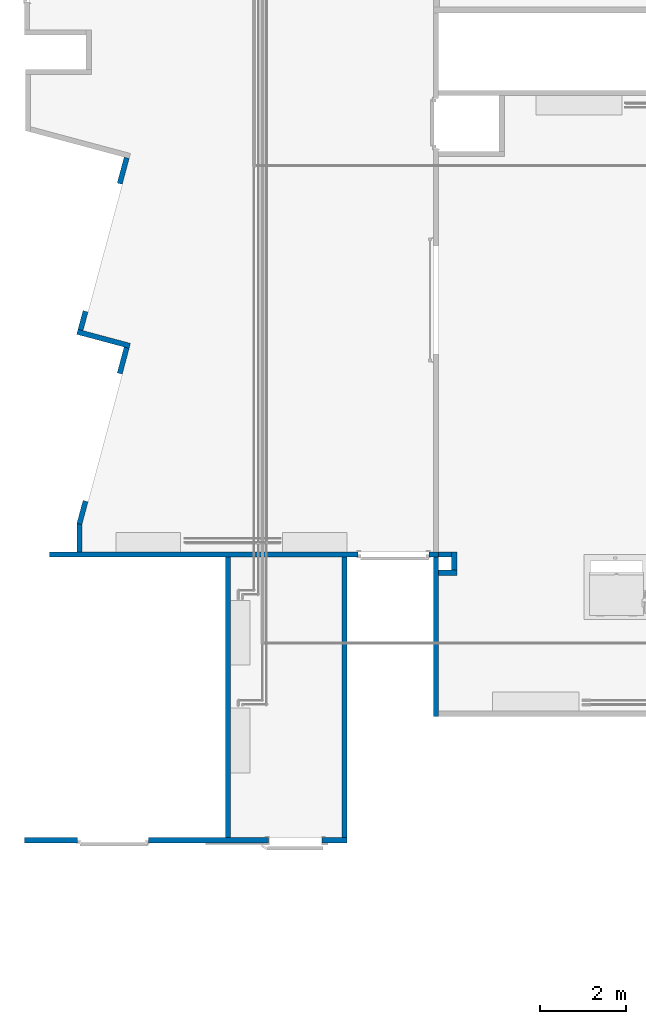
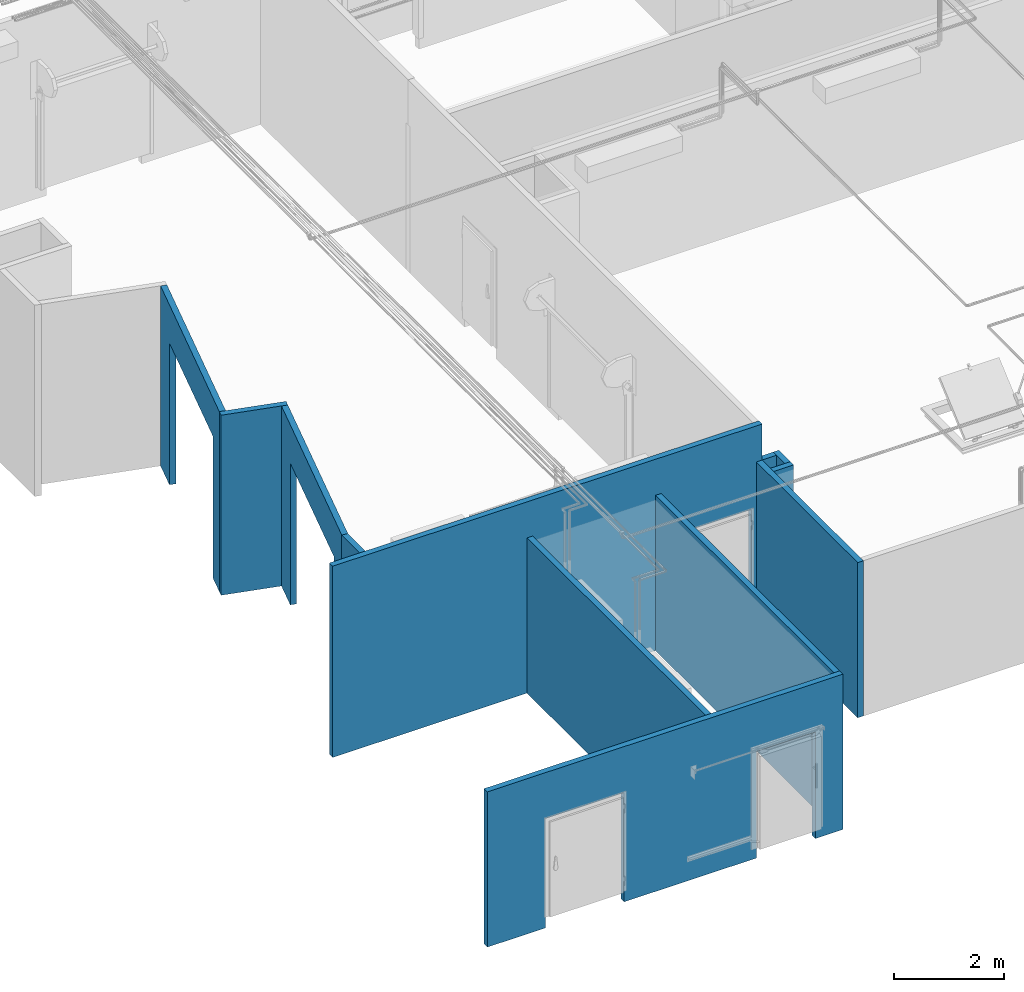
# One storey, part 1 of 652: 12 walls, 8 openings.
"""IFC2X3 building model written with IfcOpenShell, lengths in millimetres."""

from ifc_helpers import new_model, entity, si_unit, converted_unit, direction, frame, frame_2d, origin, place, context, subcontext, project, spatial, polyline, rectangle, outline, extrude, material, layer, layer_set, layer_usage, type_object, element, save


model = new_model("IFC2X3")

# Units and contexts
model_context = context("Model", 3, precision=0.01, world=frame((0.0, 0.0, 308426.39999999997)), true_north=direction((6.123233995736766e-17, 1.0)))
plan_context = context("Plan", 3, precision=0.01, world=frame((0.0, 0.0, 308426.39999999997)), true_north=direction((6.123233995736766e-17, 1.0)))
body_context = subcontext(model_context, "Body", "Model", "MODEL_VIEW")
ifc_project = project(units=[si_unit("LENGTHUNIT", "METRE", prefix="MILLI"), si_unit("AREAUNIT", "SQUARE_METRE"), si_unit("VOLUMEUNIT", "CUBIC_METRE"), converted_unit("PLANEANGLEUNIT", "DEGREE", entity("IfcPlaneAngleMeasure", 0.017453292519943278), si_unit("PLANEANGLEUNIT", "RADIAN"), dimensions=[0, 0, 0, 0, 0, 0, 0])], contexts=[model_context, plan_context])

# Site, building, storey
site_placement = place(None, origin())
site = spatial("IfcSite", under=ifc_project, at=site_placement, Name="Default", CompositionType="ELEMENT")
building_placement = place(site_placement, origin())
building = spatial("IfcBuilding", under=site, at=building_placement, CompositionType="ELEMENT")
storey_placement = place(building_placement, frame((0.0, 0.0, 1730.6999999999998)))
storey = spatial("IfcBuildingStorey", under=building, at=storey_placement, Name="EG_Produktion_FFB", CompositionType="ELEMENT", Elevation=1730.6999999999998)

# Wall
ifc_material = material(Name="GPG_Paneelwand")
ifc_layer = layer(ifc_material, 120.0)
ifc_layer_set = layer_set([ifc_layer], Name="Basiswand:Kühlzellen Paneelwand 120")
ifc_layer_usage_1 = layer_usage(ifc_layer_set, "AXIS2", "NEGATIVE", 60.0)
wall_type = type_object("IfcWallType", Name="Basiswand:Kühlzellen Paneelwand 120", PredefinedType="STANDARD", material=ifc_layer_set)
wall_1_placement = place(storey_placement, frame((19210.0, 36210.0, -250.0), z_axis=(0.0, 0.0, 1.0), x_axis=(0.0, 1.0, 0.0)))
element("IfcWallStandardCase", 1, at=wall_1_placement, inside=storey, type_object=wall_type, material=ifc_layer_usage_1, Name="Basiswand:Kühlzellen Paneelwand 120", ObjectType="Basiswand:Kühlzellen Paneelwand 120", context=body_context, shape_type="SweptSolid", body=[
    extrude(rectangle(XDim=3690.0000000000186, YDim=119.9999999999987, at=frame_2d((1845.0000000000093, 0.0), x_axis=(-1.0, 0.0))), origin(), (0.0, 0.0, 1.0), 3449.9999999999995),
])

# Wall, openings
ifc_layer_usage_2 = layer_usage(ifc_layer_set, "AXIS2", "POSITIVE", -60.0)
wall_2_placement = place(storey_placement, frame((17150.0, 33340.0, -250.0), z_axis=(0.0, 0.0, 1.0), x_axis=(-1.0, 0.0, 0.0)))
wall_2 = element("IfcWallStandardCase", 2, at=wall_2_placement, inside=storey, type_object=wall_type, material=ifc_layer_usage_2, Name="Basiswand:Kühlzellen Paneelwand 120", ObjectType="Basiswand:Kühlzellen Paneelwand 120", context=body_context, shape_type="SweptSolid", body=[
    extrude(rectangle(XDim=7475.000000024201, YDim=119.9999999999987, at=frame_2d((3737.5000000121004, 0.0), x_axis=(1.0, 0.0))), origin(), (0.0, 0.0, 1.0), 3449.9999999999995),
])
opening_1_placement = place(wall_2_placement, frame((17150.0, 33340.0, 250.0), z_axis=(0.0, 0.0, 1.0), x_axis=(-1.0, 0.0, 0.0)))
element("IfcOpeningElement", 3, at=opening_1_placement, cuts=wall_2, Name="Basiswand:Kühlzellen Paneelwand 120", ObjectType="Opening", context=body_context, shape_type="SweptSolid", body=[
    extrude(rectangle(XDim=2120.0, YDim=1239.9999999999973, at=frame_2d((0.0, -1.0800249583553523e-12), x_axis=(1.0, 0.0))), frame((15950.0, 34924.0, 1060.0), z_axis=(0.0, -1.0, 0.0), x_axis=(0.0, 0.0, 1.0)), (0.0, 0.0, 1.0), 3048.0),
])
opening_2_placement = place(wall_2_placement, frame((17150.0, 33340.0, 250.0), z_axis=(0.0, 0.0, 1.0), x_axis=(-1.0, 0.0, 0.0)))
element("IfcOpeningElement", 4, at=opening_2_placement, cuts=wall_2, Name="Basiswand:Kühlzellen Paneelwand 120", ObjectType="Opening", context=body_context, shape_type="SweptSolid", body=[
    extrude(rectangle(XDim=250.00000000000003, YDim=1239.9999999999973, at=frame_2d((2.7000623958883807e-13, -1.0800249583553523e-12), x_axis=(1.0, 0.0))), frame((15950.0, 34804.0, -125.0), z_axis=(0.0, -1.0, 0.0), x_axis=(0.0, 0.0, 1.0)), (0.0, 0.0, 1.0), 3048.0),
])
opening_3_placement = place(wall_2_placement, frame((17150.0, 33340.0, 250.0), z_axis=(0.0, 0.0, 1.0), x_axis=(-1.0, 0.0, 0.0)))
element("IfcOpeningElement", 5, at=opening_3_placement, cuts=wall_2, Name="Basiswand:Kühlzellen Paneelwand 120", ObjectType="Opening", context=body_context, shape_type="SweptSolid", body=[
    extrude(rectangle(XDim=2175.0, YDim=1649.9999999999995, at=frame_2d((1.1368683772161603e-13, -1.0800249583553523e-12), x_axis=(1.0, 0.0))), frame((11725.0, 34924.0, 1087.4999999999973), z_axis=(0.0, -1.0, 0.0), x_axis=(0.0, 0.0, 1.0)), (0.0, 0.0, 1.0), 3048.0),
])
opening_4_placement = place(wall_2_placement, frame((17150.0, 33340.0, 250.0), z_axis=(0.0, 0.0, 1.0), x_axis=(-1.0, 0.0, 0.0)))
element("IfcOpeningElement", 6, at=opening_4_placement, cuts=wall_2, Name="Basiswand:Kühlzellen Paneelwand 120", ObjectType="Opening", context=body_context, shape_type="SweptSolid", body=[
    extrude(rectangle(XDim=249.99999999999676, YDim=1649.9999999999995, at=frame_2d((0.0, -1.0800249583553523e-12), x_axis=(1.0, 0.0))), frame((11725.0, 34804.0, -125.0), z_axis=(0.0, -1.0, 0.0), x_axis=(0.0, 0.0, 1.0)), (0.0, 0.0, 1.0), 3048.0),
])

# Wall
ifc_layer_usage_3 = layer_usage(ifc_layer_set, "AXIS2", "POSITIVE", -60.0)
wall_3_placement = place(storey_placement, frame((17090.0, 33400.0, -250.0), z_axis=(0.0, 0.0, 1.0), x_axis=(0.0, 1.0, 0.0)))
element("IfcWallStandardCase", 7, at=wall_3_placement, inside=storey, type_object=wall_type, material=ifc_layer_usage_3, Name="Basiswand:Kühlzellen Paneelwand 120", ObjectType="Basiswand:Kühlzellen Paneelwand 120", context=body_context, shape_type="SweptSolid", body=[
    extrude(rectangle(XDim=6499.9999999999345, YDim=119.9999999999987, at=frame_2d((3249.9999999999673, 0.0), x_axis=(-1.0, 0.0))), origin(), (0.0, 0.0, 1.0), 3449.9999999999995),
])

# Wall, openings
ifc_layer_usage_4 = layer_usage(ifc_layer_set, "AXIS2", "POSITIVE", -60.0)
wall_4_placement = place(storey_placement, frame((10246.696145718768, 39960.0, -250.0)))
wall_4 = element("IfcWallStandardCase", 8, at=wall_4_placement, inside=storey, type_object=wall_type, material=ifc_layer_usage_4, Name="Basiswand:Kühlzellen Paneelwand 120", ObjectType="Basiswand:Kühlzellen Paneelwand 120", context=body_context, shape_type="SweptSolid", body=[
    extrude(rectangle(XDim=9023.303854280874, YDim=120.00000000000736, at=frame_2d((4511.651927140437, -8.135714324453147e-13), x_axis=(-1.0, 0.0))), origin(), (0.0, 0.0, 1.0), 4250.0),
])
opening_5_placement = place(wall_4_placement, frame((-10246.696145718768, -39960.0, 250.0)))
element("IfcOpeningElement", 9, at=opening_5_placement, cuts=wall_4, Name="Basiswand:Kühlzellen Paneelwand 120", ObjectType="Opening", context=body_context, shape_type="SweptSolid", body=[
    extrude(rectangle(XDim=2175.0, YDim=1650.0000000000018, at=frame_2d((0.0, 1.1368683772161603e-13), x_axis=(0.0, 1.0))), frame((18225.0, 38496.0, 1087.4999999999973), z_axis=(0.0, 1.0, 0.0), x_axis=(-1.0, 0.0, 0.0)), (0.0, 0.0, 1.0), 3048.0),
])
opening_6_placement = place(wall_4_placement, frame((-10246.696145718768, -39960.0, 250.0)))
element("IfcOpeningElement", 10, at=opening_6_placement, cuts=wall_4, Name="Basiswand:Kühlzellen Paneelwand 120", ObjectType="Opening", context=body_context, shape_type="SweptSolid", body=[
    extrude(rectangle(XDim=249.99999999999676, YDim=1650.0000000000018, at=frame_2d((0.0, 0.0), x_axis=(0.0, 1.0))), frame((18225.0, 38376.0, -125.0), z_axis=(0.0, 1.0, 0.0), x_axis=(-1.0, 0.0, 0.0)), (0.0, 0.0, 1.0), 3048.0),
])

# Walls
ifc_layer_usage_5 = layer_usage(ifc_layer_set, "AXIS2", "NEGATIVE", 60.0)
wall_5_placement = place(storey_placement, frame((14390.0, 39900.0, -250.0), z_axis=(0.0, 0.0, 1.0), x_axis=(0.0, -1.0, 0.0)))
element("IfcWallStandardCase", 11, at=wall_5_placement, inside=storey, type_object=wall_type, material=ifc_layer_usage_5, Name="Basiswand:Kühlzellen Paneelwand 120", ObjectType="Basiswand:Kühlzellen Paneelwand 120", context=body_context, shape_type="SweptSolid", body=[
    extrude(rectangle(XDim=6499.999999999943, YDim=119.9999999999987, at=frame_2d((3249.9999999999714, 0.0), x_axis=(-1.0, 0.0))), origin(), (0.0, 0.0, 1.0), 3449.9999999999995),
])
ifc_layer_usage_6 = layer_usage(ifc_layer_set, "AXIS2", "NEGATIVE", 60.0)
wall_6_placement = place(storey_placement, frame((10943.763687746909, 40020.0, 0.0), z_axis=(0.0, 0.0, 1.0), x_axis=(0.0, 1.0, 0.0)))
element("IfcWallStandardCase", 12, at=wall_6_placement, inside=storey, type_object=wall_type, material=ifc_layer_usage_6, Name="Basiswand:Kühlzellen Paneelwand 120", ObjectType="Basiswand:Kühlzellen Paneelwand 120", context=body_context, shape_type="SweptSolid", body=[
    extrude(outline(polyline([(638.7745325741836, -60.0), (654.5728322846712, 60.0), (0.0, 60.0), (0.0, -60.0), (638.7745325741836, -60.0)])), origin(), (0.0, 0.0, 1.0), 4000.0000000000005),
])

# Wall, opening
ifc_layer_usage_7 = layer_usage(ifc_layer_set, "AXIS2", "POSITIVE", -60.0)
wall_7_placement = place(storey_placement, frame((12039.111988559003, 44754.56919304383, 0.0), z_axis=(0.0, 0.0, 1.0), x_axis=(-0.2588190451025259, -0.9659258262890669, 0.0)))
wall_7 = element("IfcWallStandardCase", 13, at=wall_7_placement, inside=storey, type_object=wall_type, material=ifc_layer_usage_7, Name="Basiswand:Kühlzellen Paneelwand 120", ObjectType="Basiswand:Kühlzellen Paneelwand 120", context=body_context, shape_type="SweptSolid", body=[
    extrude(outline(polyline([(0.0, -60.0), (4240.0, -60.0), (4224.201700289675, 60.0), (0.0, 60.0), (0.0, -60.0)])), origin(), (0.0, 0.0, 1.0), 4000.0000000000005),
])
opening_7_placement = place(wall_7_placement, origin())
element("IfcOpeningElement", 14, at=opening_7_placement, cuts=wall_7, Name="Basiswand:Kühlzellen Paneelwand 120", ObjectType="Opening", context=body_context, shape_type="SweptSolid", body=[
    extrude(rectangle(XDim=3650.000000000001, YDim=3060.0000000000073, at=frame_2d((1.1368683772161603e-13, -4.433786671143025e-12), x_axis=(1.0, 0.0))), frame((2150.0, -60.0, 1325.0), z_axis=(0.0, 1.0, 0.0), x_axis=(0.0, 0.0, -1.0)), (0.0, 0.0, 1.0), 119.9999999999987),
])

# Wall
ifc_layer_usage_8 = layer_usage(ifc_layer_set, "AXIS2", "POSITIVE", -60.0)
wall_8_placement = place(storey_placement, frame((10896.704640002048, 45122.79289034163, 0.0), z_axis=(0.0, 0.0, 1.0), x_axis=(0.9659258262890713, -0.2588190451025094, 0.0)))
element("IfcWallStandardCase", 15, at=wall_8_placement, inside=storey, type_object=wall_type, material=ifc_layer_usage_8, Name="Basiswand:Kühlzellen Paneelwand 120", ObjectType="Basiswand:Kühlzellen Paneelwand 120", context=body_context, shape_type="SweptSolid", body=[
    extrude(rectangle(XDim=1258.7840678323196, YDim=120.00000000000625, at=frame_2d((629.3920339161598, 2.1671553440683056e-13), x_axis=(-1.0, 0.0))), origin(), (0.0, 0.0, 1.0), 4000.0000000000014),
])

# Wall, opening
ifc_layer_usage_9 = layer_usage(ifc_layer_set, "AXIS2", "POSITIVE", -60.0)
wall_9_placement = place(storey_placement, frame((12039.111988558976, 49154.49295978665, 0.0), z_axis=(0.0, 0.0, 1.0), x_axis=(-0.2588190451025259, -0.9659258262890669, 0.0)))
wall_9 = element("IfcWallStandardCase", 16, at=wall_9_placement, inside=storey, type_object=wall_type, material=ifc_layer_usage_9, Name="Basiswand:Kühlzellen Paneelwand 120", ObjectType="Basiswand:Kühlzellen Paneelwand 120", context=body_context, shape_type="SweptSolid", body=[
    extrude(rectangle(XDim=4129.999999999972, YDim=119.9999999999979, at=frame_2d((2064.999999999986, -9.521272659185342e-13), x_axis=(-1.0, 0.0))), origin(), (0.0, 0.0, 1.0), 3999.999999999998),
])
opening_8_placement = place(wall_9_placement, origin())
element("IfcOpeningElement", 17, at=opening_8_placement, cuts=wall_9, Name="Basiswand:Kühlzellen Paneelwand 120", ObjectType="Opening", context=body_context, shape_type="SweptSolid", body=[
    extrude(rectangle(XDim=3650.0, YDim=3060.0000000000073, at=frame_2d((3.410605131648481e-13, 4.433786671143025e-12), x_axis=(1.0, 0.0))), frame((2150.0, -60.0, 1325.0), z_axis=(0.0, 1.0, 0.0), x_axis=(0.0, 0.0, -1.0)), (0.0, 0.0, 1.0), 119.99999999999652),
])

# Walls
ifc_layer_usage_10 = layer_usage(ifc_layer_set, "AXIS2", "NEGATIVE", 60.0)
wall_10_placement = place(storey_placement, frame((19270.0, 39540.0, -250.0)))
element("IfcWallStandardCase", 18, at=wall_10_placement, inside=storey, type_object=wall_type, material=ifc_layer_usage_10, Name="Basiswand:Kühlzellen Paneelwand 120", ObjectType="Basiswand:Kühlzellen Paneelwand 120", context=body_context, shape_type="SweptSolid", body=[
    extrude(rectangle(XDim=419.99999999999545, YDim=120.00000000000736, at=frame_2d((209.99999999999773, -1.6981971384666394e-12), x_axis=(-1.0, 0.0))), origin(), (0.0, 0.0, 1.0), 3449.9999999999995),
])
ifc_layer_usage_11 = layer_usage(ifc_layer_set, "AXIS2", "NEGATIVE", 60.0)
wall_11_placement = place(storey_placement, frame((19630.0, 39600.0, -250.0), z_axis=(0.0, 0.0, 1.0), x_axis=(0.0, 1.0, 0.0)))
element("IfcWallStandardCase", 19, at=wall_11_placement, inside=storey, type_object=wall_type, material=ifc_layer_usage_11, Name="Basiswand:Kühlzellen Paneelwand 120", ObjectType="Basiswand:Kühlzellen Paneelwand 120", context=body_context, shape_type="SweptSolid", body=[
    extrude(rectangle(XDim=420.0000000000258, YDim=119.9999999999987, at=frame_2d((210.0000000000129, 4.689582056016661e-13), x_axis=(-1.0, 0.0))), origin(), (0.0, 0.0, 1.0), 3449.9999999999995),
])
ifc_layer_usage_12 = layer_usage(ifc_layer_set, "AXIS2", "POSITIVE", -60.0)
wall_12_placement = place(storey_placement, frame((19270.0, 39960.0, -250.0)))
element("IfcWallStandardCase", 20, at=wall_12_placement, inside=storey, type_object=wall_type, material=ifc_layer_usage_12, Name="Basiswand:Kühlzellen Paneelwand 120", ObjectType="Basiswand:Kühlzellen Paneelwand 120", context=body_context, shape_type="SweptSolid", body=[
    extrude(rectangle(XDim=300.0000000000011, YDim=120.00000000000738, at=frame_2d((150.00000000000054, -1.8829382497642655e-12), x_axis=(-1.0, 0.0))), origin(), (0.0, 0.0, 1.0), 3449.9999999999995),
])

save(model, "model.ifc")
